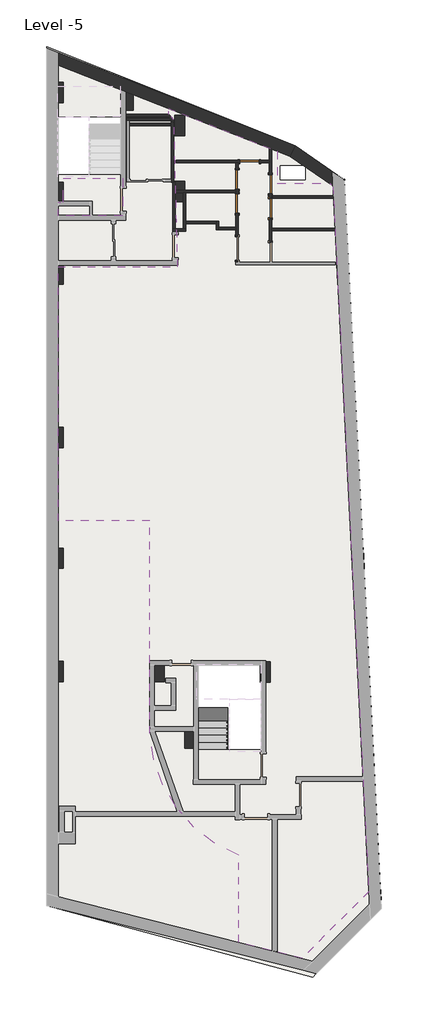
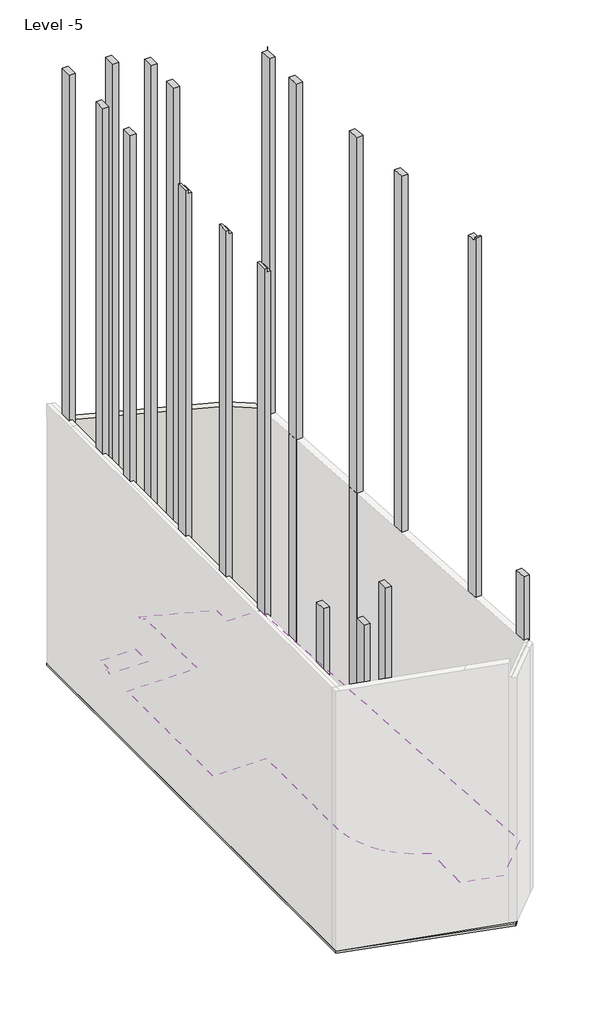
# One storey, part 2 of 3: 19 walls, 18 columns, 5 doors, 2 coverings, 1 proxy, 1 slab, 1 stair flight.
"""IFC4 building model written with IfcOpenShell, lengths in millimetres."""

from ifc_helpers import new_model, si_unit, point, frame, frame_2d, origin, place, context, project, spatial, polyline, circle_curve, trimmed, segment, composite_curve, outline, extrude, faceted_brep, transform, mapped, element, save
from ifc_brep_helpers import plane_surface, revolved_surface, advanced_brep
from components import m_concrete_rectangular_column_300_x_450mm_4d62632d, m_concrete_rectangular_column_300_x_450mm_010d7cc1, m_concrete_rectangular_column_300_x_450mm_54aa0f4e, m_single_flush_0762_x_2032mm_6732b1f7, m_single_flush_0762_x_2134mm_2f099e9c, m_single_flush_0762_x_2134mm_7790ef76

model = new_model("IFC4")

# Units and contexts
model_context = context("Model", 3, world=origin())
ifc_project = project(units=[si_unit("LENGTHUNIT", "METRE", prefix="MILLI")], contexts=[model_context])

# Site, building, storey
site = spatial("IfcSite", under=ifc_project)
building = spatial("IfcBuilding", under=site)
storey = spatial("IfcBuildingStorey", under=building, Name="Level -5", Elevation=-17500.0)

# Proxy
placement = place(None, origin())
element("IfcBuildingElementProxy", 1, Name="Reveal", ObjectType="Reveal", at=placement, inside=storey, context=model_context, shape_type="SweptSolid", body=[
    extrude(outline(polyline([(11150.0440091, 10134.9088004), (11199.9793623, 10137.4505514), (11202.5211133, 10087.5151982), (11152.5857601, 10084.9734471), (11150.0440091, 10134.9088004)])), frame((0.0, 0.0, -17500.0), z_axis=(0.0, 0.0, 1.0), x_axis=(1.0, 0.0, 0.0)), (0.0, 0.0, 1.0), 17500.0),
])

# Columns
element("IfcColumn", 2, ObjectType="M_Concrete-Rectangular-Column : 300 x 450mm", at=placement, inside=storey, context=model_context, shape_type="SweptSolid", body=[
    extrude(outline(polyline([(-17500.0, -250.0290025), (-17500.0, 149.9709975), (25259.0, 149.9709975), (25259.0, -80.0421304), (25500.0, -80.0421304), (25500.0, -250.0290025), (-17500.0, -250.0290025)])), frame((0.0, -9581.4794893, 0.0), z_axis=(0.0, 1.0, 0.0), x_axis=(0.0, 0.0, 1.0)), (0.0, 0.0, 1.0), 800.0),
])
element("IfcColumn", 3, ObjectType="M_Concrete-Rectangular-Column : 300 x 450mm", at=placement, inside=storey, context=model_context, shape_type="SweptSolid", body=[
    extrude(outline(polyline([(-17500.0, -250.0290025), (-17500.0, 149.9709975), (25259.0, 149.9709975), (25259.0, -80.0421304), (25500.0, -80.0421304), (25500.0, -250.0290025), (-17500.0, -250.0290025)])), frame((0.0, -5141.4794893, 0.0), z_axis=(0.0, 1.0, 0.0), x_axis=(0.0, 0.0, 1.0)), (0.0, 0.0, 1.0), 800.0),
])
element("IfcColumn", 4, ObjectType="M_Concrete-Rectangular-Column : 300 x 450mm", at=placement, inside=storey, context=model_context, shape_type="SweptSolid", body=[
    extrude(outline(polyline([(-17500.0, -250.0290025), (-17500.0, 149.9709975), (25259.0, 149.9709975), (25259.0, -80.0421304), (25500.0, -80.0421304), (25500.0, -250.0290025), (-17500.0, -250.0290025)])), frame((0.0, -400.0, 0.0), z_axis=(0.0, 1.0, 0.0), x_axis=(0.0, 0.0, 1.0)), (0.0, 0.0, 1.0), 800.0),
])
element("IfcColumn", 5, ObjectType="M_Concrete-Rectangular-Column : 300 x 450mm", at=placement, inside=storey, context=model_context, shape_type="AdvancedBrep", body=[
    advanced_brep(
    [(11182.3042239, 9848.2083575, -17500.0), (11226.6063948, 9049.4359758, -17500.0), (10827.220204, 9027.2848904, -17500.0), (10782.9180331, 9826.057272, -17500.0), (11182.3042239, 9848.2083575, 25500.0), (11182.3941497, 9846.5869872, 25500.0), (11182.3941497, 9846.5869872, 25259.0), (11226.6063948, 9049.4359758, 25259.0), (10827.220204, 9027.2848904, 25259.0), (10782.9180331, 9826.057272, 25259.0), (11180.8968066, 9848.1302981, 25259.0), (11180.8968066, 9848.1302981, 25500.0)],
    [
        (0, 1),
        (1, 2),
        (2, 3),
        (3, 0),
        (0, 4),
        (4, 5),
        (5, 6),
        (6, 7),
        (7, 1),
        (7, 8),
        (8, 2),
        (8, 9),
        (9, 3),
        (9, 10),
        (10, 11),
        (11, 4),
        (11, 5, circle_curve(frame((4535.6080259, 3399.2748166, 25500.0), z_axis=(0.0, 0.0, -1.0), x_axis=(1.0, 0.0, 0.0)), 9260.0)),
        (6, 10, circle_curve(frame((4535.6080259, 3399.2748166, 25259.0), z_axis=(0.0, 0.0, 1.0), x_axis=(1.0, 0.0, 0.0)), 9260.0)),
    ],
    [
        plane_surface(frame((10782.9180331, 9826.057272, -17500.0), z_axis=(0.0, 0.0, -1.0000000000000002), x_axis=(0.9984654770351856, 0.05537771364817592, 0.0))),
        plane_surface(frame((11226.6063948, 9049.4359758, 25500.0), z_axis=(0.9984654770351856, 0.05537771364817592, 0.0), x_axis=(0.0, 0.0, -1.0))),
        plane_surface(frame((10827.220204, 9027.2848904, 25500.0), z_axis=(0.05537771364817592, -0.9984654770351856, 0.0), x_axis=(0.0, 0.0, -1.0))),
        plane_surface(frame((10782.9180331, 9826.057272, 25500.0), z_axis=(-0.9984654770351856, -0.05537771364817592, 0.0), x_axis=(0.0, 0.0, -1.0))),
        plane_surface(frame((11182.3042239, 9848.2083575, 25500.0), z_axis=(-0.05537771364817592, 0.9984654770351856, 0.0), x_axis=(0.0, 0.0, -1.0))),
        plane_surface(frame((10782.9180331, 9826.057272, 25500.0), z_axis=(0.0, 0.0, 1.0000000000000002), x_axis=(-0.9984654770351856, -0.05537771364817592, 0.0))),
        plane_surface(frame((-80.0421304, 14944.8648867, 25259.0), z_axis=(0.0, 0.0, 1.0), x_axis=(0.9323005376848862, -0.36168454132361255, 0.0))),
        revolved_surface(polyline([(13795.608025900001, 3399.2748166, 25259.0), (13795.608025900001, 3399.2748166, 25500.0)]), (4535.6080259, 3399.2748166, 25500.0), (0.0, 0.0, -1.0)),
    ],
    [
        (0, [[1, 2, 3, 4]]),
        (1, [[-1, 5, 6, 7, 8, 9]]),
        (2, [[-2, -9, 10, 11]]),
        (3, [[-3, -11, 12, 13]]),
        (4, [[-4, -13, 14, 15, 16, -5]]),
        (5, [[-16, 17, -6]]),
        (6, [[18, -14, -12, -10, -8]]),
        (7, [[-18, -7, -17, -15]]),
    ],
),
])
element("IfcColumn", 6, ObjectType="M_Concrete-Rectangular-Column : 300 x 450mm", at=placement, inside=storey, context=model_context, shape_type="SweptSolid", body=[
    extrude(outline(polyline([(11287.002714, 6850.0358764), (11331.3048849, 6051.2634948), (10931.9186941, 6029.1124093), (10887.6165232, 6827.884791), (11287.002714, 6850.0358764)])), frame((0.0, 0.0, -17500.0), z_axis=(0.0, 0.0, 1.0), x_axis=(1.0, 0.0, 0.0)), (0.0, 0.0, 1.0), 42759.0),
])
element("IfcColumn", 7, ObjectType="M_Concrete-Rectangular-Column : 300 x 450mm", at=placement, inside=storey, context=model_context, shape_type="SweptSolid", body=[
    extrude(outline(polyline([(11615.5076517, 396.2133689), (11659.8098226, -402.5590128), (11260.4236318, -424.7100982), (11216.1214609, 374.0622834), (11615.5076517, 396.2133689)])), frame((0.0, 0.0, -17500.0), z_axis=(0.0, 0.0, 1.0), x_axis=(1.0, 0.0, 0.0)), (0.0, 0.0, 1.0), 42759.0),
])
element("IfcColumn", 8, ObjectType="M_Concrete-Rectangular-Column : 300 x 450mm", at=placement, inside=storey, context=model_context, shape_type="SweptSolid", body=[
    extrude(outline(polyline([(11919.2738761, -4335.2577904), (11963.576047, -5134.030172), (11564.1898562, -5156.1812575), (11519.8876853, -4357.4088758), (11919.2738761, -4335.2577904)])), frame((0.0, 0.0, -17500.0), z_axis=(0.0, 0.0, 1.0), x_axis=(1.0, 0.0, 0.0)), (0.0, 0.0, 1.0), 42759.0),
])
element("IfcColumn", 9, ObjectType="M_Concrete-Rectangular-Column : 300 x 450mm", at=placement, inside=storey, context=model_context, shape_type="AdvancedBrep", body=[
    advanced_brep(
    [(12319.8538407, -12205.0694585, -17500.0), (12364.1560116, -13003.8418401, -17500.0), (11964.7698208, -13025.9929256, -17500.0), (11920.4676499, -12227.220544, -17500.0), (12319.8538407, -12205.0694585, 25259.0), (12358.6632627, -12904.807051, 25259.0), (12358.6632627, -12904.807051, 25500.0), (12364.1560116, -13003.8418401, 25500.0), (11964.7698208, -13025.9929256, 25500.0), (11958.5616756, -12914.059472, 25500.0), (11958.5616756, -12914.059472, 25259.0), (11920.4676499, -12227.220544, 25259.0)],
    [
        (0, 1),
        (1, 2),
        (2, 3),
        (3, 0),
        (0, 4),
        (4, 5),
        (5, 6),
        (6, 7),
        (7, 1),
        (7, 8),
        (8, 2),
        (8, 9),
        (9, 10),
        (10, 11),
        (11, 3),
        (11, 4),
        (6, 9, circle_curve(frame((11609.3245394, 10843.3737526, 25500.0), z_axis=(0.0, 0.0, -1.0), x_axis=(1.0, 0.0, 0.0)), 23760.0)),
        (10, 5, circle_curve(frame((11609.3245394, 10843.3737526, 25259.0), z_axis=(0.0, 0.0, 1.0), x_axis=(1.0, 0.0, 0.0)), 23760.0)),
    ],
    [
        plane_surface(frame((11920.4676499, -12227.220544, -17500.0), z_axis=(0.0, 0.0, -1.0000000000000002), x_axis=(0.9984654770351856, 0.05537771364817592, 0.0))),
        plane_surface(frame((12364.1560116, -13003.8418401, 25500.0), z_axis=(0.9984654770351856, 0.05537771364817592, 0.0), x_axis=(0.0, 0.0, -1.0))),
        plane_surface(frame((11964.7698208, -13025.9929256, 25500.0), z_axis=(0.05537771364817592, -0.9984654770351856, 0.0), x_axis=(0.0, 0.0, -1.0))),
        plane_surface(frame((11920.4676499, -12227.220544, 25500.0), z_axis=(-0.9984654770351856, -0.05537771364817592, 0.0), x_axis=(0.0, 0.0, -1.0))),
        plane_surface(frame((12319.8538407, -12205.0694585, 25500.0), z_axis=(-0.05537771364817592, 0.9984654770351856, 0.0), x_axis=(0.0, 0.0, -1.0))),
        plane_surface(frame((11920.4676499, -12227.220544, 25500.0), z_axis=(0.0, 0.0, 1.0000000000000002), x_axis=(-0.9984654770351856, -0.05537771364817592, 0.0))),
        plane_surface(frame((-80.0421304, 14944.8648867, 25259.0), z_axis=(0.0, 0.0, 1.0), x_axis=(0.9323005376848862, -0.36168454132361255, 0.0))),
        revolved_surface(polyline([(35369.3245394, 10843.3737526, 25259.0), (35369.3245394, 10843.3737526, 25500.0)]), (11609.3245394, 10843.3737526, 25500.0), (0.0, 0.0, -1.0)),
    ],
    [
        (0, [[1, 2, 3, 4]]),
        (1, [[-1, 5, 6, 7, 8, 9]]),
        (2, [[-2, -9, 10, 11]]),
        (3, [[-3, -11, 12, 13, 14, 15]]),
        (4, [[-4, -15, 16, -5]]),
        (5, [[-10, -8, 17, -12]]),
        (6, [[18, -6, -16, -14]]),
        (7, [[-18, -13, -17, -7]]),
    ],
),
])
element("IfcColumn", 10, ObjectType="M_Concrete-Rectangular-Column : 300 x 450mm", at=placement, inside=storey, context=model_context, shape_type="SweptSolid", body=[
    extrude(outline(polyline([(4924.958768, 10043.416795), (4924.958768, 9243.416795), (4524.958768, 9243.416795), (4524.958768, 10043.416795), (4924.958768, 10043.416795)])), frame((0.0, 0.0, -17500.0), z_axis=(0.0, 0.0, 1.0), x_axis=(1.0, 0.0, 0.0)), (0.0, 0.0, 1.0), 42759.0),
])
element("IfcColumn", 11, ObjectType="M_Concrete-Rectangular-Column : 300 x 450mm", at=placement, inside=storey, context=model_context, shape_type="SweptSolid", body=[
    extrude(outline(polyline([(4924.958768, 12644.2923646), (4924.958768, 11844.2923646), (4524.958768, 11844.2923646), (4524.958768, 12644.2923646), (4924.958768, 12644.2923646)])), frame((0.0, 0.0, -17500.0), z_axis=(0.0, 0.0, 1.0), x_axis=(1.0, 0.0, 0.0)), (0.0, 0.0, 1.0), 42759.0),
])
m_concrete_rectangular_column_300_x_450mm_shape = m_concrete_rectangular_column_300_x_450mm_4d62632d(model_context)
element("IfcColumn", 12, ObjectType="M_Concrete-Rectangular-Column : 300 x 450mm", at=placement, inside=storey, context=model_context, shape_type="MappedRepresentation", body=[
    mapped(m_concrete_rectangular_column_300_x_450mm_shape, transform((-50.0290025, 6419.4957281, 0.0), x_axis=(1.0, 0.0, 0.0), y_axis=(0.0, 1.0, 0.0), z_axis=(0.0, 0.0, 1.0))),
])
element("IfcColumn", 13, ObjectType="M_Concrete-Rectangular-Column : 300 x 450mm", at=placement, inside=storey, context=model_context, shape_type="MappedRepresentation", body=[
    mapped(m_concrete_rectangular_column_300_x_450mm_shape, transform((-50.0290025, 9619.4957281, 0.0), x_axis=(1.0, 0.0, 0.0), y_axis=(0.0, 1.0, 0.0), z_axis=(0.0, 0.0, 1.0))),
])
element("IfcColumn", 14, ObjectType="M_Concrete-Rectangular-Column : 300 x 450mm", at=placement, inside=storey, context=model_context, shape_type="MappedRepresentation", body=[
    mapped(m_concrete_rectangular_column_300_x_450mm_shape, transform((-50.0290025, 13543.419171, 0.0), x_axis=(1.0, 0.0, 0.0), y_axis=(0.0, 1.0, 0.0), z_axis=(0.0, 0.0, 1.0))),
])
element("IfcColumn", 15, ObjectType="M_Concrete-Rectangular-Column : 300 x 450mm", at=placement, inside=storey, context=model_context, shape_type="MappedRepresentation", body=[
    mapped(m_concrete_rectangular_column_300_x_450mm_shape, transform((2699.6974459, 13232.0783118, 0.0), x_axis=(1.0, 0.0, 0.0), y_axis=(0.0, 1.0, 0.0), z_axis=(0.0, 0.0, 1.0))),
])
m_concrete_rectangular_column_300_x_450mm_2_shape = m_concrete_rectangular_column_300_x_450mm_010d7cc1(model_context)
element("IfcColumn", 16, ObjectType="M_Concrete-Rectangular-Column : 300 x 450mm", at=placement, inside=storey, context=model_context, shape_type="MappedRepresentation", body=[
    mapped(m_concrete_rectangular_column_300_x_450mm_2_shape, transform((3909.9709975, -9181.4794893, 0.0), x_axis=(1.0, 0.0, 0.0), y_axis=(0.0, 1.0, 0.0), z_axis=(0.0, 0.0, 1.0))),
])
element("IfcColumn", 17, ObjectType="M_Concrete-Rectangular-Column : 300 x 450mm", at=placement, inside=storey, context=model_context, shape_type="MappedRepresentation", body=[
    mapped(m_concrete_rectangular_column_300_x_450mm_2_shape, transform((5127.1115914, -11791.6459159, 0.0), x_axis=(1.0, 0.0, 0.0), y_axis=(0.0, 1.0, 0.0), z_axis=(0.0, 0.0, 1.0))),
])
element("IfcColumn", 18, ObjectType="M_Concrete-Rectangular-Column : 300 x 450mm", at=placement, inside=storey, context=model_context, shape_type="MappedRepresentation", body=[
    mapped(m_concrete_rectangular_column_300_x_450mm_2_shape, transform((8084.9667664, -9200.8058531, 0.0), x_axis=(1.0, 0.0, 0.0), y_axis=(0.0, 1.0, 0.0), z_axis=(0.0, 0.0, 1.0))),
])
m_concrete_rectangular_column_300_x_450mm_3_shape = m_concrete_rectangular_column_300_x_450mm_54aa0f4e(model_context)
element("IfcColumn", 19, ObjectType="M_Concrete-Rectangular-Column : 300 x 450mm", at=placement, inside=storey, context=model_context, shape_type="MappedRepresentation", body=[
    mapped(m_concrete_rectangular_column_300_x_450mm_3_shape, transform((12403.9436523, -17755.5615062, 0.0), x_axis=(0.9984654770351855, 0.05537771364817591, 0.0), y_axis=(-0.05537771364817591, 0.9984654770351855, 0.0), z_axis=(0.0, 0.0, 1.0))),
])

# Coverings
element("IfcCovering", 20, ObjectType="600 x 600mm Grid", at=placement, inside=storey, context=model_context, shape_type="SweptSolid", body=[
    extrude(outline(composite_curve([segment(polyline([(-50.0421304, 6706.8748838), (4649.9578696, 6706.8748838), (4499.6302337, 12469.6208989), (4287.3075102, 12681.9436225), (4287.3075102, 12910.4698504), (8546.2956563, 11236.7124719), (8546.2956563, 9974.899122), (10606.2956563, 9974.899122), (10739.4142744, 9841.7805038), (11644.560032, -7935.1908681), (12147.983796, -17822.3828109), (9531.6887056, -20438.6779013), (7033.8183565, -19807.2861395), (7033.8183565, -16402.4446286)]), True, "CONTINUOUS"), segment(trimmed(circle_curve(frame_2d((9044.1542392, -11277.4219597)), 5505.2073274), [point((7033.8183565, -16402.4446286))], [point((7033.4708981, -16402.3083214))], False, "CARTESIAN"), True, "CONTINUOUS"), segment(trimmed(circle_curve(frame_2d((9044.1542392, -11277.4219597)), 5505.2073274), [point((7033.4708981, -16402.3083214))], [point((3549.4089841, -11616.6597812))], False, "CARTESIAN"), True, "CONTINUOUS"), segment(polyline([(3549.4089841, -11616.6597812), (3549.4089841, -3268.2489802), (-50.0421304, -3268.2489802), (-50.0421304, 6706.8748838)]), True, "CONTINUOUS")], self_intersect=False), holes=[polyline([(8099.9667664, -8760.5298497), (5499.9667664, -8760.5298497), (5499.9667664, -8940.5298497), (5449.992527, -8940.5298497), (5449.992527, -12235.6929429), (5499.9667664, -12235.6929429), (5499.9667664, -13617.5279318), (8099.9667664, -13617.5279318), (8099.9667664, -8760.5298497)])]), frame((0.0, 0.0, -14400.0), z_axis=(0.0, 0.0, 1.0), x_axis=(1.0, 0.0, 0.0)), (0.0, 0.0, 1.0), 52.0),
])
element("IfcCovering", 21, ObjectType="600 x 600mm Grid", at=placement, inside=storey, context=model_context, shape_type="SweptSolid", body=[
    extrude(outline(polyline([(2481.8607589, 10179.4957281), (2481.8607589, 8696.8748746), (-50.0421304, 8696.8748746), (-50.0421304, 9219.4957281), (149.9709975, 9219.4957281), (149.9709975, 10179.4957281), (2481.8607589, 10179.4957281)])), frame((0.0, 0.0, -14400.0), z_axis=(0.0, 0.0, 1.0), x_axis=(1.0, 0.0, 0.0)), (0.0, 0.0, 1.0), 52.0),
])

# Doors
m_single_flush_0762_x_2032mm_shape = m_single_flush_0762_x_2032mm_6732b1f7(model_context)
element("IfcDoor", 22, ObjectType="M_Single-Flush : 0762 x 2032mm", at=placement, inside=storey, context=model_context, shape_type="MappedRepresentation", body=[
    mapped(m_single_flush_0762_x_2032mm_shape, transform((7456.6571461, 10824.5097226, -17500.0), x_axis=(1.0, 0.0, 0.0), y_axis=(0.0, 1.0, 0.0), z_axis=(0.0, 0.0, 1.0))),
])
m_single_flush_0762_x_2134mm_shape = m_single_flush_0762_x_2134mm_2f099e9c(model_context)
element("IfcDoor", 23, ObjectType="M_Single-Flush : 0762 x 2134mm", at=placement, inside=storey, context=model_context, shape_type="MappedRepresentation", body=[
    mapped(m_single_flush_0762_x_2134mm_shape, transform((8282.6571461, 8992.4167909, -17500.0), x_axis=(0.0, 1.0, 0.0), y_axis=(-1.0, 0.0, 0.0), z_axis=(0.0, 0.0, 1.0))),
])
element("IfcDoor", 24, ObjectType="M_Single-Flush : 0762 x 2134mm", at=placement, inside=storey, context=model_context, shape_type="MappedRepresentation", body=[
    mapped(m_single_flush_0762_x_2134mm_shape, transform((6982.6571496, 10114.416795, -17500.0), x_axis=(0.0, -1.0, 0.0), y_axis=(1.0, 0.0, 0.0), z_axis=(0.0, 0.0, 1.0))),
])
m_single_flush_0762_x_2134mm_2_shape = m_single_flush_0762_x_2134mm_7790ef76(model_context)
element("IfcDoor", 25, ObjectType="M_Single-Flush : 0762 x 2134mm", at=placement, inside=storey, context=model_context, shape_type="MappedRepresentation", body=[
    mapped(m_single_flush_0762_x_2134mm_2_shape, transform((8282.6571461, 9934.4167909, -17500.0), x_axis=(0.0, -1.0, 0.0), y_axis=(1.0, 0.0, 0.0), z_axis=(0.0, 0.0, 1.0))),
])
element("IfcDoor", 26, ObjectType="M_Single-Flush : 0762 x 2134mm", at=placement, inside=storey, context=model_context, shape_type="MappedRepresentation", body=[
    mapped(m_single_flush_0762_x_2134mm_2_shape, transform((6982.6571496, 9172.416795, -17500.0), x_axis=(0.0, 1.0, 0.0), y_axis=(-1.0, 0.0, 0.0), z_axis=(0.0, 0.0, 1.0))),
])

# Slab
element("IfcSlab", 27, ObjectType="Generic 150mm", at=placement, inside=storey, context=model_context, shape_type="SweptSolid", body=[
    extrude(outline(polyline([(-500.0290025, -18370.1851175), (-500.0290025, 15339.8119091), (9263.2774585, 11438.4456591), (11176.2825612, 10111.2119993), (12609.2224021, -18040.3873705), (9945.4046506, -21193.1902987), (-500.0290025, -18370.1851175)]), holes=[polyline([(-60.0290025, 12568.8506586), (-60.0290025, 10328.8506586), (2419.6668671, 10328.8506586), (2419.6668671, 12568.8506586), (-60.0290025, 12568.8506586)]), polyline([(7909.9709976, -8940.5298497), (5449.992527, -8940.5298497), (5449.992527, -12235.6929429), (7909.9709976, -12235.6929429), (7909.9709976, -8940.5298497)]), polyline([(9656.2956563, 10654.899122), (8676.2956563, 10654.899122), (8676.2956563, 10104.899122), (9656.2956563, 10104.899122), (9656.2956563, 10654.899122)])]), frame((0.0, 0.0, -17650.0), z_axis=(0.0, 0.0, 1.0), x_axis=(1.0, 0.0, 0.0)), (0.0, 0.0, 1.0), 150.0),
])

# Stair flight
element("IfcStairFlight", 28, ObjectType="190mm Depth", at=placement, inside=storey, context=model_context, shape_type="Brep", body=[
    faceted_brep([(5389.9709976, -11955.6929429, -17250.0), (5389.9709976, -12235.6929429, -17250.0), (6609.9709976, -12235.6929429, -17250.0), (6609.9709976, -11955.6929429, -17250.0), (5389.9709976, -11955.6929429, -17500.0), (5389.9709976, -12235.6929429, -17500.0), (6609.9709976, -12235.6929429, -17500.0), (6609.9709976, -11955.6929429, -17500.0), (5389.9709976, -11675.6929429, -17000.0), (5389.9709976, -11955.6929429, -17000.0), (6609.9709976, -11955.6929429, -17000.0), (6609.9709976, -11675.6929429, -17000.0), (5389.9709976, -11675.6929429, -17254.7129737), (5389.9709976, -11950.4144124, -17500.0), (6609.9709976, -11950.4144124, -17500.0), (6609.9709976, -11675.6929429, -17254.7129737), (5389.9709976, -11395.6929429, -16750.0), (5389.9709976, -11675.6929429, -16750.0), (6609.9709976, -11675.6929429, -16750.0), (6609.9709976, -11395.6929429, -16750.0), (5389.9709976, -11395.6929429, -17004.7129737), (6609.9709976, -11395.6929429, -17004.7129737), (5389.9709976, -11115.6929429, -16500.0), (5389.9709976, -11395.6929429, -16500.0), (6609.9709976, -11395.6929429, -16500.0), (6609.9709976, -11115.6929429, -16500.0), (5389.9709976, -11115.6929429, -16754.7129737), (6609.9709976, -11115.6929429, -16754.7129737), (5389.9709976, -10835.6929429, -16250.0), (5389.9709976, -11115.6929429, -16250.0), (6609.9709976, -11115.6929429, -16250.0), (6609.9709976, -10835.6929429, -16250.0), (5389.9709976, -10835.6929429, -16504.7129737), (6609.9709976, -10835.6929429, -16504.7129737), (5389.9709976, -10555.6929429, -16000.0), (5389.9709976, -10835.6929429, -16000.0), (6609.9709976, -10835.6929429, -16000.0), (6609.9709976, -10555.6929429, -16000.0), (5389.9709976, -10555.6929429, -16254.7129737), (6609.9709976, -10555.6929429, -16254.7129737), (5389.9709976, -10555.6929429, -15750.0), (6609.9709976, -10555.6929429, -15750.0), (6609.9709976, -10175.6929429, -15750.0), (5389.9709976, -10175.6929429, -15750.0), (5389.9709976, -10175.6929429, -15850.0), (5389.9709976, -10275.6929429, -15850.0), (5389.9709976, -10275.6929429, -16004.7129737), (6609.9709976, -10275.6929429, -16004.7129737), (6609.9709976, -10275.6929429, -15850.0), (6609.9709976, -10175.6929429, -15850.0)], [[[0, 1, 2, 3]], [[1, 0, 4, 5]], [[2, 1, 5, 6]], [[3, 2, 6, 7]], [[8, 9, 10, 11]], [[4, 0, 9, 8, 12, 13]], [[0, 3, 10, 9]], [[3, 7, 14, 15, 11, 10]], [[16, 17, 18, 19]], [[17, 16, 20, 12, 8]], [[8, 11, 18, 17]], [[19, 18, 11, 15, 21]], [[22, 23, 24, 25]], [[23, 22, 26, 20, 16]], [[16, 19, 24, 23]], [[25, 24, 19, 21, 27]], [[28, 29, 30, 31]], [[29, 28, 32, 26, 22]], [[22, 25, 30, 29]], [[31, 30, 25, 27, 33]], [[34, 35, 36, 37]], [[35, 34, 38, 32, 28]], [[28, 31, 36, 35]], [[37, 36, 31, 33, 39]], [[40, 41, 42, 43]], [[40, 43, 44, 45, 46, 38, 34]], [[34, 37, 41, 40]], [[42, 41, 37, 39, 47, 48, 49]], [[48, 47, 46, 45]], [[5, 4, 13, 14, 7, 6]], [[14, 13, 12, 20, 26, 32, 38, 46, 47, 39, 33, 27, 21, 15]], [[49, 48, 45, 44]], [[49, 44, 43, 42]]]),
])

# Walls
element("IfcWall", 29, ObjectType="Generic - 10cm-gypsu-2boith", at=placement, inside=storey, context=model_context, shape_type="SweptSolid", body=[
    extrude(outline(polyline([(8332.6571461, 9493.4167909), (10756.4446821, 9493.4167909), (10756.4446821, 9393.4167909), (8332.6571461, 9393.4167909), (8332.6571461, 9493.4167909)])), frame((0.0, 0.0, -17500.0), z_axis=(0.0, 0.0, 1.0), x_axis=(1.0, 0.0, 0.0)), (0.0, 0.0, 1.0), 3259.0),
])
element("IfcWall", 30, ObjectType="Generic - 10cm-gypsu-2boith", at=placement, inside=storey, context=model_context, shape_type="SweptSolid", body=[
    extrude(outline(polyline([(8332.6571461, 8212.3307768), (10822.3546218, 8212.3307768), (10827.4447051, 8112.3307768), (8332.6571461, 8112.3307768), (8332.6571461, 8212.3307768)])), frame((0.0, 0.0, -17500.0), z_axis=(0.0, 0.0, 1.0), x_axis=(1.0, 0.0, 0.0)), (0.0, 0.0, 1.0), 3259.0),
])
element("IfcWall", 31, ObjectType="Generic - 10cm-gypsu-2boith", at=placement, inside=storey, context=model_context, shape_type="Brep", body=[
    faceted_brep([(8232.6571461, 9373.4167909, -17500.0), (8232.6571461, 9373.4167909, -15366.0), (8232.6571461, 8611.4167909, -15366.0), (8232.6571461, 8611.4167909, -17500.0), (8232.6571461, 7643.9436582, -17500.0), (8232.6571461, 7643.9436582, -15366.0), (8232.6571461, 6881.9436582, -15366.0), (8232.6571461, 6881.9436582, -14241.0), (8232.6571461, 10774.5097226, -14241.0), (8232.6571461, 10874.5097226, -14241.0), (8232.6571461, 11359.9705681, -14241.0), (8232.6571461, 11359.9705681, -17500.0), (8232.6571461, 10874.5097226, -17500.0), (8232.6571461, 10774.5097226, -17500.0), (8232.6571461, 10315.4167909, -17500.0), (8232.6571461, 10315.4167909, -15366.0), (8232.6571461, 9553.4167909, -15366.0), (8232.6571461, 9553.4167909, -17500.0), (8332.6571461, 9373.4167909, -15366.0), (8332.6571461, 9373.4167909, -17500.0), (8332.6571461, 9393.4167909, -17500.0), (8332.6571461, 9493.4167909, -17500.0), (8332.6571461, 9553.4167909, -17500.0), (8332.6571461, 9553.4167909, -15366.0), (8332.6571461, 10315.4167909, -15366.0), (8332.6571461, 10315.4167909, -17500.0), (8332.6571461, 11320.6711542, -17500.0), (8332.6571461, 11320.6711542, -14241.0), (8332.6571461, 9493.4167909, -14241.0), (8332.6571461, 9393.4167909, -14241.0), (8332.6571461, 8212.3307768, -14241.0), (8332.6571461, 8112.3307768, -14241.0), (8332.6571461, 6881.9436582, -14241.0), (8332.6571461, 6881.9436582, -15366.0), (8332.6571461, 7643.9436582, -15366.0), (8332.6571461, 7643.9436582, -17500.0), (8332.6571461, 8112.3307768, -17500.0), (8332.6571461, 8212.3307768, -17500.0), (8332.6571461, 8611.4167909, -17500.0), (8332.6571461, 8611.4167909, -15366.0)], [[[0, 1, 2, 3, 4, 5, 6, 7, 8, 9, 10, 11, 12, 13, 14, 15, 16, 17]], [[18, 19, 20, 21, 22, 23, 24, 25, 26, 27, 28, 29, 30, 31, 32, 33, 34, 35, 36, 37, 38, 39]], [[11, 26, 25, 14, 13, 12]], [[19, 0, 17, 22, 21, 20]], [[3, 38, 37, 36, 35, 4]], [[26, 11, 10, 27]], [[6, 33, 32, 7]], [[1, 0, 19, 18]], [[2, 1, 18, 39]], [[3, 2, 39, 38]], [[23, 22, 17, 16]], [[24, 23, 16, 15]], [[25, 24, 15, 14]], [[5, 34, 33, 6]], [[34, 5, 4, 35]], [[10, 9, 8, 7, 32, 31, 30, 29, 28, 27]]]),
])
element("IfcWall", 32, ObjectType="Generic - 10cm-gypsu-2boith", at=placement, inside=storey, context=model_context, shape_type="Brep", body=[
    faceted_brep([(7837.6571461, 10874.5097226, -17500.0), (7837.6571461, 10874.5097226, -15468.0), (7075.6571461, 10874.5097226, -15468.0), (7075.6571461, 10874.5097226, -17500.0), (4599.6770304, 10874.5097226, -17500.0), (4599.6770304, 10874.5097226, -14241.0), (8232.6571461, 10874.5097226, -14241.0), (8232.6571461, 10874.5097226, -17500.0), (7837.6571461, 10774.5097226, -15468.0), (7837.6571461, 10774.5097226, -17500.0), (8232.6571461, 10774.5097226, -17500.0), (8232.6571461, 10774.5097226, -14241.0), (7032.6571496, 10774.5097226, -14241.0), (6932.6571496, 10774.5097226, -14241.0), (4599.6770304, 10774.5097226, -14241.0), (4599.6770304, 10774.5097226, -17500.0), (6932.6571496, 10774.5097226, -17500.0), (7032.6571496, 10774.5097226, -17500.0), (7075.6571461, 10774.5097226, -17500.0), (7075.6571461, 10774.5097226, -15468.0)], [[[0, 1, 2, 3, 4, 5, 6, 7]], [[8, 9, 10, 11, 12, 13, 14, 15, 16, 17, 18, 19]], [[15, 4, 3, 18, 17, 16]], [[7, 10, 9, 0]], [[4, 15, 14, 5]], [[10, 7, 6, 11]], [[1, 0, 9, 8]], [[2, 1, 8, 19]], [[3, 2, 19, 18]], [[6, 5, 14, 13, 12, 11]]]),
])
element("IfcWall", 33, ObjectType="Generic - 10cm-gypsu-2boith", at=placement, inside=storey, context=model_context, shape_type="Brep", body=[
    faceted_brep([(6932.6571496, 9693.416795, -17500.0), (4554.958768, 9693.416795, -17500.0), (4554.958768, 9693.416795, -14241.0), (6932.6571496, 9693.416795, -14241.0), (4554.958768, 9593.416795, -17500.0), (4869.958768, 9593.416795, -17500.0), (4969.958768, 9593.416795, -17500.0), (6932.6571496, 9593.416795, -17500.0), (6932.6571496, 9593.416795, -14241.0), (4969.958768, 9593.416795, -14241.0), (4869.958768, 9593.416795, -14241.0), (4554.958768, 9593.416795, -14241.0)], [[[0, 1, 2, 3]], [[4, 5, 6, 7, 8, 9, 10, 11]], [[1, 0, 7, 6, 5, 4]], [[7, 0, 3, 8]], [[1, 4, 11, 2]], [[3, 2, 11, 10, 9, 8]]]),
])
element("IfcWall", 34, ObjectType="Generic - 10cm-gypsu-2boith", at=placement, inside=storey, context=model_context, shape_type="SweptSolid", body=[
    extrude(outline(polyline([(4969.958768, 8492.3307768), (6160.345487, 8492.3307768), (6160.345487, 8392.3307768), (4969.958768, 8392.3307768), (4969.958768, 8492.3307768)])), frame((0.0, 0.0, -17500.0), z_axis=(0.0, 0.0, 1.0), x_axis=(1.0, 0.0, 0.0)), (0.0, 0.0, 1.0), 3259.0),
])
element("IfcWall", 35, ObjectType="Generic - 10cm-gypsu-2boith", at=placement, inside=storey, context=model_context, shape_type="SweptSolid", body=[
    extrude(outline(polyline([(6260.345487, 8242.3307768), (6932.6571496, 8242.3307768), (6932.6571496, 8142.3307768), (6260.345487, 8142.3307768), (6260.345487, 8242.3307768)])), frame((0.0, 0.0, -17500.0), z_axis=(0.0, 0.0, 1.0), x_axis=(1.0, 0.0, 0.0)), (0.0, 0.0, 1.0), 3259.0),
])
element("IfcWall", 36, ObjectType="Generic - 10cm-gypsu-2boith", at=placement, inside=storey, context=model_context, shape_type="Brep", body=[
    faceted_brep([(6932.6571496, 6961.9436582, -15366.0), (6932.6571496, 6961.9436582, -17500.0), (6932.6571496, 6881.9436582, -17500.0), (6932.6571496, 6881.9436582, -14241.0), (6932.6571496, 8142.3307768, -14241.0), (6932.6571496, 8242.3307768, -14241.0), (6932.6571496, 9593.416795, -14241.0), (6932.6571496, 9693.416795, -14241.0), (6932.6571496, 10774.5097226, -14241.0), (6932.6571496, 10774.5097226, -17500.0), (6932.6571496, 10495.416795, -17500.0), (6932.6571496, 10495.416795, -15366.0), (6932.6571496, 9733.416795, -15366.0), (6932.6571496, 9733.416795, -17500.0), (6932.6571496, 9693.416795, -17500.0), (6932.6571496, 9593.416795, -17500.0), (6932.6571496, 9553.416795, -17500.0), (6932.6571496, 9553.416795, -15366.0), (6932.6571496, 8791.416795, -15366.0), (6932.6571496, 8791.416795, -17500.0), (6932.6571496, 8242.3307768, -17500.0), (6932.6571496, 8142.3307768, -17500.0), (6932.6571496, 7876.9436582, -17500.0), (6932.6571496, 7876.9436582, -15366.0), (7032.6571496, 6961.9436582, -17500.0), (7032.6571496, 6961.9436582, -15366.0), (7032.6571496, 7876.9436582, -15366.0), (7032.6571496, 7876.9436582, -17500.0), (7032.6571496, 8791.416795, -17500.0), (7032.6571496, 8791.416795, -15366.0), (7032.6571496, 9553.416795, -15366.0), (7032.6571496, 9553.416795, -17500.0), (7032.6571496, 9733.416795, -17500.0), (7032.6571496, 9733.416795, -15366.0), (7032.6571496, 10495.416795, -15366.0), (7032.6571496, 10495.416795, -17500.0), (7032.6571496, 10774.5097226, -17500.0), (7032.6571496, 10774.5097226, -14241.0), (7032.6571496, 6881.9436582, -14241.0), (7032.6571496, 6881.9436582, -17500.0)], [[[0, 1, 2, 3, 4, 5, 6, 7, 8, 9, 10, 11, 12, 13, 14, 15, 16, 17, 18, 19, 20, 21, 22, 23]], [[24, 25, 26, 27, 28, 29, 30, 31, 32, 33, 34, 35, 36, 37, 38, 39]], [[39, 2, 1, 24]], [[9, 36, 35, 10]], [[27, 22, 21, 20, 19, 28]], [[31, 16, 15, 14, 13, 32]], [[2, 39, 38, 3]], [[36, 9, 8, 37]], [[25, 24, 1, 0]], [[26, 25, 0, 23]], [[27, 26, 23, 22]], [[17, 16, 31, 30]], [[18, 17, 30, 29]], [[19, 18, 29, 28]], [[33, 32, 13, 12]], [[34, 33, 12, 11]], [[35, 34, 11, 10]], [[8, 7, 6, 5, 4, 3, 38, 37]]]),
])
element("IfcWall", 37, ObjectType="Generic - 10cm-gypsu-2boith", at=placement, inside=storey, context=model_context, shape_type="Brep", body=[
    faceted_brep([(6160.345487, 8492.3307768, -17500.0), (6160.345487, 8392.3307768, -17500.0), (6160.345487, 8142.3307768, -17500.0), (6160.345487, 8142.3307768, -14241.0), (6160.345487, 8392.3307768, -14241.0), (6160.345487, 8492.3307768, -14241.0), (6260.345487, 8142.3307768, -17500.0), (6260.345487, 8242.3307768, -17500.0), (6260.345487, 8492.3307768, -17500.0), (6260.345487, 8492.3307768, -14241.0), (6260.345487, 8242.3307768, -14241.0), (6260.345487, 8142.3307768, -14241.0)], [[[0, 1, 2, 3, 4, 5]], [[6, 7, 8, 9, 10, 11]], [[2, 1, 0, 8, 7, 6]], [[8, 0, 5, 9]], [[2, 6, 11, 3]], [[5, 4, 3, 11, 10, 9]]]),
])
element("IfcWall", 38, ObjectType="Generic - 10cm-gypsu-2boith", at=placement, inside=storey, context=model_context, shape_type="Brep", body=[
    faceted_brep([(4969.958768, 8192.3307768, -17500.0), (4869.958768, 8192.3307768, -17500.0), (4554.958768, 8192.3307768, -17500.0), (4454.958768, 8192.3307768, -17500.0), (4449.6770251, 8192.3307768, -17500.0), (4449.6770251, 8192.3307768, -14241.0), (4869.958768, 8192.3307768, -14241.0), (4969.958768, 8192.3307768, -14241.0), (4449.6770251, 8092.3307768, -17500.0), (4969.958768, 8092.3307768, -17500.0), (4969.958768, 8092.3307768, -14241.0), (4449.6770251, 8092.3307768, -14241.0)], [[[0, 1, 2, 3, 4, 5, 6, 7]], [[8, 9, 10, 11]], [[4, 3, 2, 1, 0, 9, 8]], [[4, 8, 11, 5]], [[9, 0, 7, 10]], [[7, 6, 5, 11, 10]]]),
])
element("IfcWall", 39, ObjectType="Generic - 10cm-gypsu-2boith", at=placement, inside=storey, context=model_context, shape_type="Brep", body=[
    faceted_brep([(4454.958768, 10019.4984209, -17500.0), (4454.958768, 8192.3307768, -17500.0), (4454.958768, 8192.3307768, -14000.0), (4454.958768, 10019.4984209, -14000.0), (4554.958768, 10019.4984209, -17500.0), (4554.958768, 10019.4984209, -14000.0), (4554.958768, 9693.416795, -14000.0), (4554.958768, 9593.416795, -14000.0), (4554.958768, 8192.3307768, -14000.0), (4554.958768, 8192.3307768, -17500.0), (4554.958768, 9593.416795, -17500.0), (4554.958768, 9693.416795, -17500.0), (4499.6302337, 10019.4984209, -17500.0), (4499.6302337, 10019.4984209, -14000.0)], [[[0, 1, 2, 3]], [[4, 5, 6, 7, 8, 9, 10, 11]], [[1, 0, 12, 4, 11, 10, 9]], [[3, 2, 8, 7, 6, 5, 13]], [[0, 3, 13, 5, 4, 12]], [[2, 1, 9, 8]]]),
])
element("IfcWall", 40, ObjectType="Generic - 10cm-gypsu-2boith", at=placement, inside=storey, context=model_context, shape_type="Brep", body=[
    faceted_brep([(4969.958768, 8192.3307768, -17500.0), (4969.958768, 8392.3307768, -17500.0), (4969.958768, 8492.3307768, -17500.0), (4969.958768, 9593.416795, -17500.0), (4969.958768, 9593.416795, -14241.0), (4969.958768, 8492.3307768, -14241.0), (4969.958768, 8392.3307768, -14241.0), (4969.958768, 8192.3307768, -14241.0), (4869.958768, 9593.416795, -17500.0), (4869.958768, 8192.3307768, -17500.0), (4869.958768, 8192.3307768, -14241.0), (4869.958768, 9593.416795, -14241.0)], [[[0, 1, 2, 3, 4, 5, 6, 7]], [[8, 9, 10, 11]], [[3, 2, 1, 0, 9, 8]], [[9, 0, 7, 10]], [[3, 8, 11, 4]], [[7, 6, 5, 4, 11, 10]]]),
])
element("IfcWall", 41, ObjectType="Generic - 10cm-gypsu-2boith", at=placement, inside=storey, context=model_context, shape_type="Brep", body=[
    faceted_brep([(4399.6302337, 12428.1995427, -17500.0), (4399.6302337, 10131.9436225, -17500.0), (4399.6302337, 10031.9436225, -17500.0), (4399.6302337, 10019.4984209, -17500.0), (4399.6302337, 10019.4984209, -14000.0), (4399.6302337, 10031.9436225, -14000.0), (4399.6302337, 10131.9436225, -14000.0), (4399.6302337, 12428.1995427, -14000.0), (4499.6302337, 12328.1995427, -17500.0), (4499.6302337, 12328.1995427, -14000.0), (4499.6302337, 10019.4984209, -14000.0), (4499.6302337, 10019.4984209, -17500.0), (4454.958768, 10019.4984209, -17500.0), (4454.958768, 10019.4984209, -14000.0)], [[[0, 1, 2, 3, 4, 5, 6, 7]], [[8, 9, 10, 11]], [[3, 2, 1, 0, 8, 11, 12]], [[4, 3, 12, 11, 10, 13]], [[7, 6, 5, 4, 13, 10, 9]], [[0, 7, 9, 8]]]),
])
element("IfcWall", 42, ObjectType="Generic - 10cm-gypsu-2boith", at=placement, inside=storey, context=model_context, shape_type="SweptSolid", body=[
    extrude(outline(polyline([(2749.6769958, 12331.9436225), (4349.6770254, 12331.9436225), (4349.6770254, 12231.9436225), (2749.6769958, 12231.9436225), (2749.6769958, 12331.9436225)])), frame((0.0, 0.0, -17500.0), z_axis=(0.0, 0.0, 1.0), x_axis=(1.0, 0.0, 0.0)), (0.0, 0.0, 1.0), 3500.0),
])
element("IfcWall", 43, ObjectType="Generic - 10cm-gypsu-2boith", at=placement, inside=storey, context=model_context, shape_type="Brep", body=[
    faceted_brep([(4295.8861539, 12531.9436225, -17500.0), (2649.6769958, 12531.9436225, -17500.0), (2649.6769958, 12531.9436225, -14000.0), (4295.8861539, 12531.9436225, -14000.0), (4395.8861539, 12431.9436225, -17500.0), (4395.8861539, 12431.9436225, -14000.0), (2749.6769958, 12431.9436225, -14000.0), (2649.6769958, 12431.9436225, -14000.0), (2649.6769958, 12431.9436225, -17500.0), (2749.6769958, 12431.9436225, -17500.0)], [[[0, 1, 2, 3]], [[4, 5, 6, 7, 8, 9]], [[1, 0, 4, 9, 8]], [[3, 2, 7, 6, 5]], [[0, 3, 5, 4]], [[2, 1, 8, 7]]]),
])
element("IfcWall", 44, ObjectType="Generic - 10cm-gypsu-2boith", at=placement, inside=storey, context=model_context, shape_type="Brep", body=[
    faceted_brep([(4287.3075102, 12681.9436225, -17500.0), (2600.9917149, 12681.9436225, -17500.0), (2600.9917149, 12681.9436225, -14000.0), (4287.3075102, 12681.9436225, -14000.0), (4387.3075102, 12581.9436225, -17500.0), (4387.3075102, 12581.9436225, -14000.0), (4245.8861539, 12581.9436225, -14000.0), (2600.9917149, 12581.9436225, -14000.0), (2600.9917149, 12581.9436225, -17500.0), (4245.8861539, 12581.9436225, -17500.0)], [[[0, 1, 2, 3]], [[4, 5, 6, 7, 8, 9]], [[1, 0, 4, 9, 8]], [[2, 1, 8, 7]], [[3, 2, 7, 6, 5]], [[0, 3, 5, 4]]]),
])
element("IfcWall", 45, ObjectType="Generic - 10cm-gypsu-2boith", at=placement, inside=storey, context=model_context, shape_type="Brep", body=[
    faceted_brep([(4499.6302337, 12469.6208989, -17500.0), (4387.3075102, 12581.9436225, -17500.0), (4387.3075102, 12581.9436225, -14000.0), (4499.6302337, 12469.6208989, -14000.0), (4499.6302337, 12328.1995427, -17500.0), (4499.6302337, 12328.1995427, -14000.0), (4399.6302337, 12428.1995427, -14000.0), (4395.8861539, 12431.9436225, -14000.0), (4295.8861539, 12531.9436225, -14000.0), (4245.8861539, 12581.9436225, -14000.0), (4245.8861539, 12581.9436225, -17500.0), (4295.8861539, 12531.9436225, -17500.0), (4395.8861539, 12431.9436225, -17500.0), (4399.6302337, 12428.1995427, -17500.0)], [[[0, 1, 2, 3]], [[4, 5, 6, 7, 8, 9, 10, 11, 12, 13]], [[1, 0, 4, 13, 12, 11, 10]], [[3, 2, 9, 8, 7, 6, 5]], [[2, 1, 10, 9]], [[0, 3, 5, 4]]]),
])
element("IfcWall", 46, ObjectType="Generic - 45cm-granit", at=placement, inside=storey, context=model_context, shape_type="Brep", body=[
    faceted_brep([(-50.0290025, 14615.0176776, -17500.0), (2419.6668671, 13644.4416764, -17500.0), (2599.6668671, 13573.7027314, -17500.0), (8232.6571461, 11359.9705681, -17500.0), (8332.6571461, 11320.6711542, -17500.0), (9049.8615045, 11038.8140451, -17500.0), (9049.8615045, 11038.8140451, 0.0), (-50.0290025, 14615.0176776, 0.0), (-50.0290025, 15098.5205107, -17500.0), (-50.0290025, 15098.5205107, 0.0), (9263.2774585, 11438.4456591, 0.0), (9263.2774585, 11438.4456591, -17500.0)], [[[0, 1, 2, 3, 4, 5, 6, 7]], [[8, 9, 10, 11]], [[5, 4, 3, 2, 1, 0, 8, 11]], [[7, 6, 10, 9]], [[0, 7, 9, 8]], [[6, 5, 11, 10]]]),
])
element("IfcWall", 47, ObjectType="Generic - 45cm-granit", at=placement, inside=storey, context=model_context, shape_type="SweptSolid", body=[
    extrude(outline(polyline([(10738.1041383, 9867.5194958), (9049.8615045, 11038.8140451), (9263.2774585, 11438.4456591), (10709.2052689, 10435.2679588), (10738.1041383, 9867.5194958)])), frame((0.0, 0.0, -17500.0), z_axis=(0.0, 0.0, 1.0), x_axis=(1.0, 0.0, 0.0)), (0.0, 0.0, 1.0), 17500.0),
])

save(model, "model.ifc")
